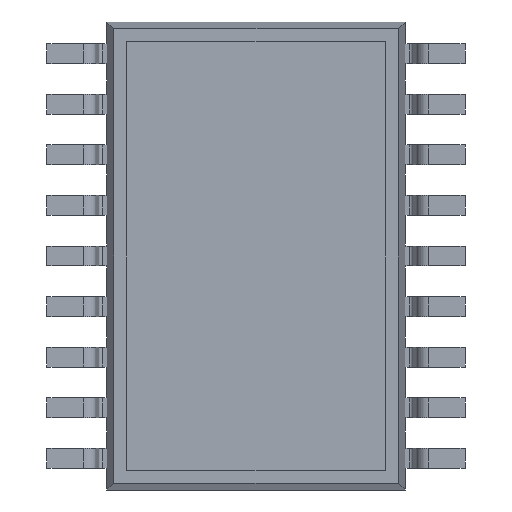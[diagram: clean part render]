
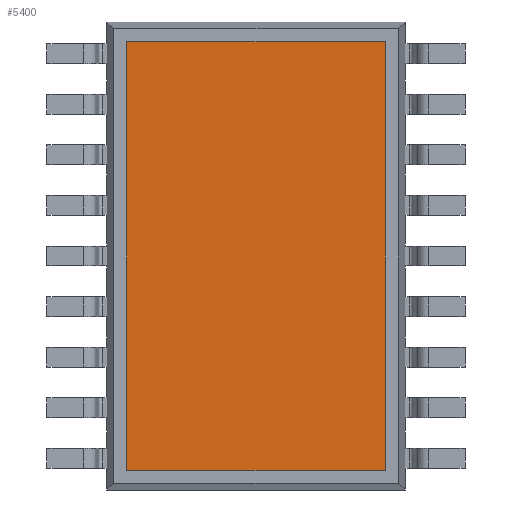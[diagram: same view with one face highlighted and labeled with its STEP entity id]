
A CAD part, front view. The second image highlights one B-rep face of the part: STEP entity #5400.
In plain terms, the highlighted planar face has unit normal (0, -1, 0).
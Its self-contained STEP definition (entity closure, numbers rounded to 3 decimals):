
#160 = DIRECTION ( 'NONE',  ( -1., 0., 0. ) ) ;
#161 = CARTESIAN_POINT ( 'NONE',  ( -3.25, 0., 5.375 ) ) ;
#279 = DIRECTION ( 'NONE',  ( 0., 0., 1. ) ) ;
#283 = DIRECTION ( 'NONE',  ( 0., 0., -1. ) ) ;
#284 = CARTESIAN_POINT ( 'NONE',  ( -3.25, 0., 5.375 ) ) ;
#290 = CARTESIAN_POINT ( 'NONE',  ( 3.25, 0., 5.375 ) ) ;
#295 = DIRECTION ( 'NONE',  ( 1., 0., 0. ) ) ;
#297 = CARTESIAN_POINT ( 'NONE',  ( -3.25, 0., -5.375 ) ) ;
#641 = FACE_OUTER_BOUND ( 'NONE', #5078, .T. ) ;
#1011 = CARTESIAN_POINT ( 'NONE',  ( 3.25, 0., -5.375 ) ) ;
#1017 = CARTESIAN_POINT ( 'NONE',  ( -3.25, 0., 5.375 ) ) ;
#1019 = CARTESIAN_POINT ( 'NONE',  ( -3.25, 0., -5.375 ) ) ;
#1020 = CARTESIAN_POINT ( 'NONE',  ( 3.25, 0., 5.375 ) ) ;
#1232 = EDGE_CURVE ( 'NONE', #10584, #10596, #7836, .T. ) ;
#1238 = EDGE_CURVE ( 'NONE', #10587, #10584, #7824, .T. ) ;
#1240 = EDGE_CURVE ( 'NONE', #10596, #10594, #7826, .T. ) ;
#1289 = EDGE_CURVE ( 'NONE', #10594, #10587, #7732, .T. ) ;
#5078 = EDGE_LOOP ( 'NONE', ( #10528, #10527, #10526, #10525 ) ) ;
#5400 = ADVANCED_FACE ( 'NONE', ( #641 ), #11885, .F. ) ;
#6721 = AXIS2_PLACEMENT_3D ( 'NONE', #11863, #11862, #11861 ) ;
#7729 = VECTOR ( 'NONE', #160, 1000. ) ;
#7732 = LINE ( 'NONE', #161, #7729 ) ;
#7817 = VECTOR ( 'NONE', #279, 1000. ) ;
#7821 = VECTOR ( 'NONE', #283, 1000. ) ;
#7824 = LINE ( 'NONE', #284, #7821 ) ;
#7826 = LINE ( 'NONE', #290, #7817 ) ;
#7833 = VECTOR ( 'NONE', #295, 1000. ) ;
#7836 = LINE ( 'NONE', #297, #7833 ) ;
#10525 = ORIENTED_EDGE ( 'NONE', *, *, #1232, .T. ) ;
#10526 = ORIENTED_EDGE ( 'NONE', *, *, #1238, .T. ) ;
#10527 = ORIENTED_EDGE ( 'NONE', *, *, #1289, .T. ) ;
#10528 = ORIENTED_EDGE ( 'NONE', *, *, #1240, .T. ) ;
#10584 = VERTEX_POINT ( 'NONE', #1019 ) ;
#10587 = VERTEX_POINT ( 'NONE', #1017 ) ;
#10594 = VERTEX_POINT ( 'NONE', #1020 ) ;
#10596 = VERTEX_POINT ( 'NONE', #1011 ) ;
#11861 = DIRECTION ( 'NONE',  ( 0., 0., 1. ) ) ;
#11862 = DIRECTION ( 'NONE',  ( 0., 1., 0. ) ) ;
#11863 = CARTESIAN_POINT ( 'NONE',  ( 0., 0., 0. ) ) ;
#11885 = PLANE ( 'NONE',  #6721 ) ;
